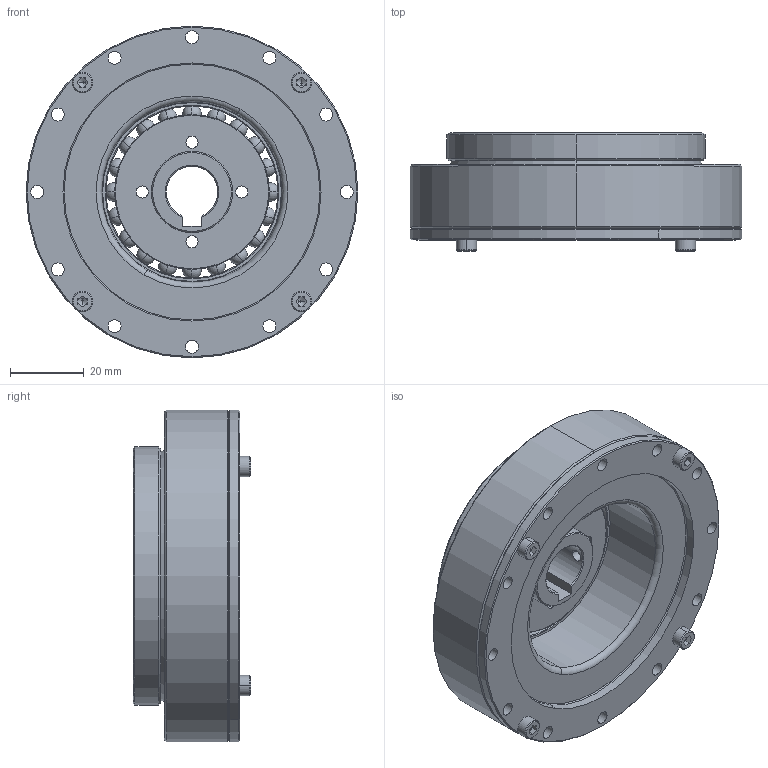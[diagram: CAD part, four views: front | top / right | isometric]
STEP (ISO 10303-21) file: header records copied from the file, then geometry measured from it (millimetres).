
FILE_DESCRIPTION (( 'STEP AP203' ), '1' );
FILE_NAME ('BHS-20-XXX-U-¢ñ.STEP', '2019-01-15T03:53:31', ( 'User' ), ( 'China' ), 'SwSTEP 2.0', 'SolidWorks 2015', '' );
FILE_SCHEMA (( 'CONFIG_CONTROL_DESIGN' ));
Length unit declared in the file: millimetre
Products named in the file (1): BHS-20-XXX-U-ｉ
Bounding box: 90 x 32 x 90 mm (x, y, z)
Surface area: 43241.7 mm2 (no closed solid volume)
Topology: 0 solids, 16 shells, 383 faces, 1199 edges, 767 vertices
Faces by surface type: cylinder 141, plane 100, cone 70, sphere 40, torus 28, bspline 4
Entity records: 15022 total; most frequent: CARTESIAN_POINT 4828, DIRECTION 2230, ORIENTED_EDGE 1950, EDGE_CURVE 1083, AXIS2_PLACEMENT_3D 908, VERTEX_POINT 707, CIRCLE 528, EDGE_LOOP 482
